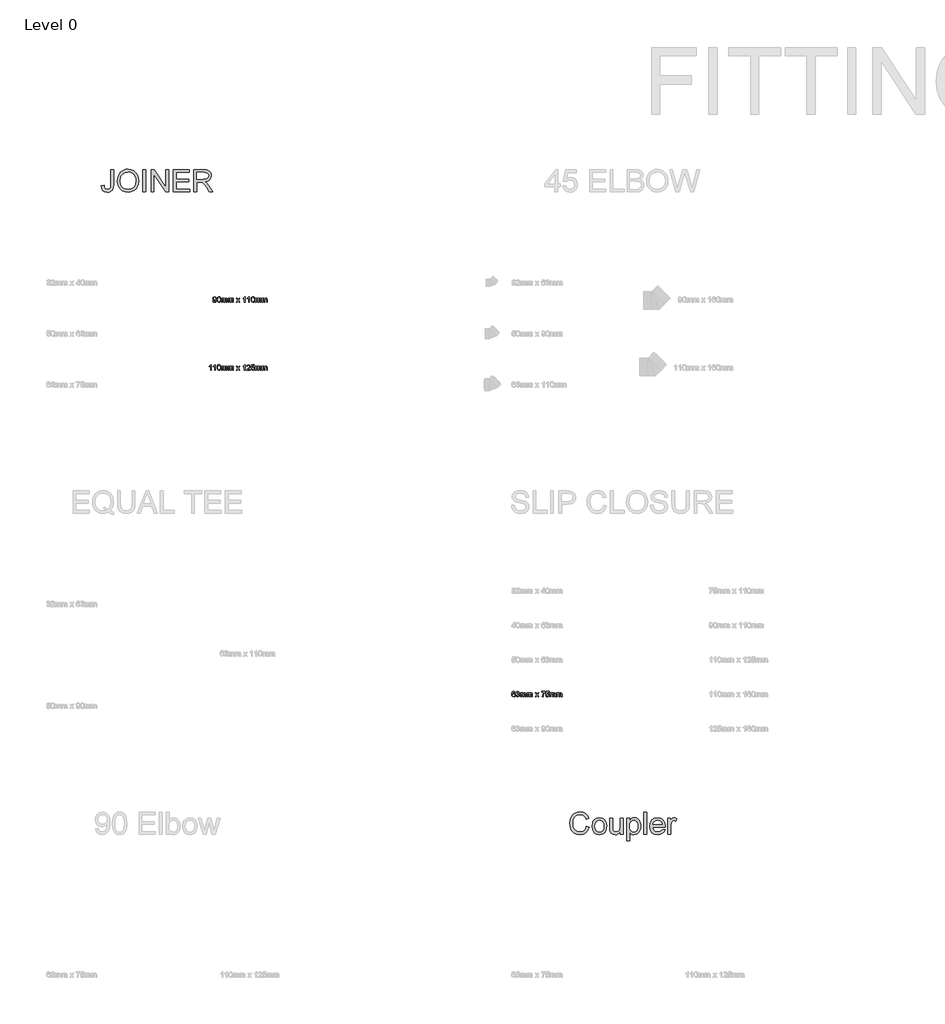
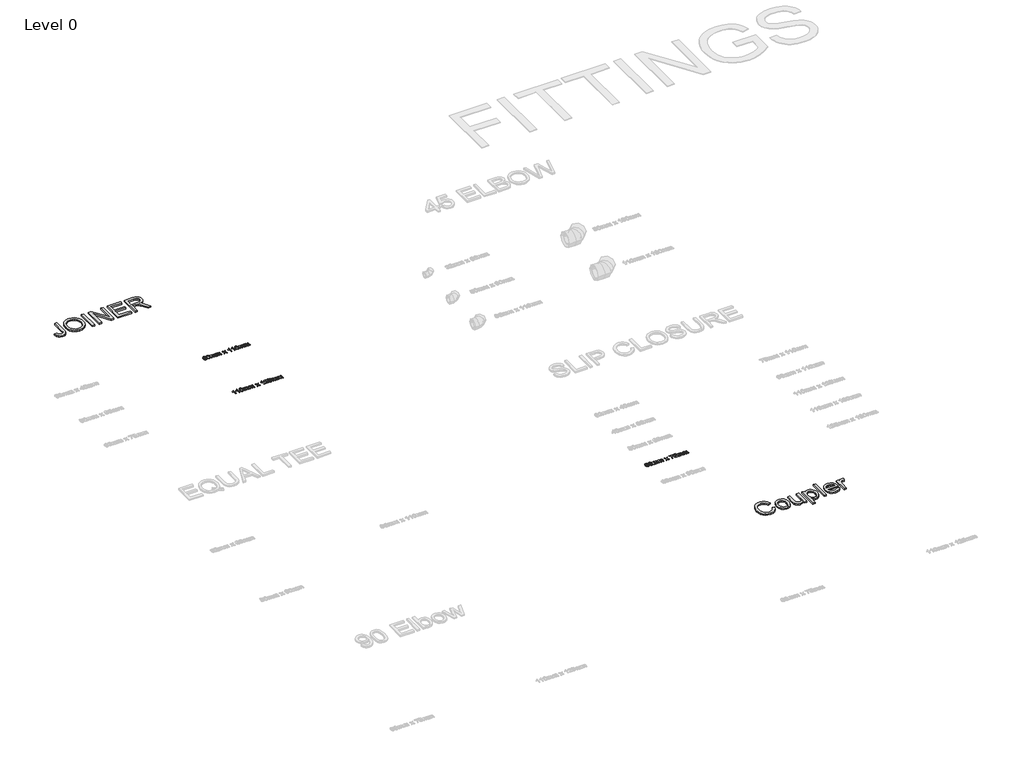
# One storey, part 9 of 21: 5 proxies.
"""IFC4 building model written with IfcOpenShell, lengths in millimetres."""

import ifcopenshell
import ifcopenshell.guid

model = None  # the IFC model being written
_history = None  # IfcOwnerHistory: only IFC2X3 demands one
_inside = {}  # id of a spatial element -> (the spatial element, [elements in it])
_under = {}  # id of a project, library or spatial element -> (it, [spatial elements below it])
_declared = {}  # id of a project -> (the project, [libraries it declares])
_typed = {}  # id of a type object -> (the type object, [elements of that type])
_made_of = {}  # id of a material, layer set ... -> (it, [elements and type objects made of it])


def new_model(schema):
    """Start an empty IFC model of exactly this schema.

    Asked for "IFC4X3", IfcOpenShell would pick the latest addendum, in which some entities
    have other attributes; the version numbers below select the first issue.
    IFC2X3 requires an IfcOwnerHistory on every rooted entity: one is made here for all.
    """
    global model, _history
    if schema == "IFC4X3":
        model = ifcopenshell.file(schema_version=(4, 3, 0, 0))
    else:
        model = ifcopenshell.file(schema=schema)
    _inside.clear()
    _under.clear()
    _declared.clear()
    _typed.clear()
    _made_of.clear()
    _history = None
    if model.schema == "IFC2X3":
        org = make("IfcOrganization", Name="unknown")
        user = make(
            "IfcPersonAndOrganization",
            ThePerson=make("IfcPerson", FamilyName="unknown"),
            TheOrganization=org,
        )
        app = make(
            "IfcApplication",
            ApplicationDeveloper=org,
            Version="unknown",
            ApplicationFullName="unknown",
            ApplicationIdentifier="unknown",
        )
        _history = make(
            "IfcOwnerHistory",
            OwningUser=user,
            OwningApplication=app,
            ChangeAction="ADDED",
            CreationDate=0,
        )
    return model


def make(cls, **values):
    """One entity of the class cls with the attributes given. An attribute that is None is left unset."""
    return model.create_entity(
        cls, **{name: value for name, value in values.items() if value is not None}
    )


def rooted(cls, **values):
    """An entity with a GlobalId (a new one), such as an element, a storey or a relation."""
    return make(cls, GlobalId=ifcopenshell.guid.new(), OwnerHistory=_history, **values)


def si_unit(unit_type, name, prefix=None):
    """IfcSIUnit, for example si_unit("LENGTHUNIT", "METRE", prefix="MILLI")."""
    return make("IfcSIUnit", UnitType=unit_type, Prefix=prefix, Name=name)


def assignment(units):
    """IfcUnitAssignment: the units of a project."""
    return None if units is None else make("IfcUnitAssignment", Units=units)


def point(xyz):
    """IfcCartesianPoint."""
    return None if xyz is None else make("IfcCartesianPoint", Coordinates=xyz)


def direction(xyz):
    """IfcDirection."""
    return None if xyz is None else make("IfcDirection", DirectionRatios=xyz)


def frame(location, z_axis=None, x_axis=None):
    """IfcAxis2Placement3D, a coordinate frame: its origin and axes. An axis left out is left unset."""
    return make(
        "IfcAxis2Placement3D",
        Location=point(location),
        Axis=direction(z_axis),
        RefDirection=direction(x_axis),
    )


def origin():
    """The frame at (0, 0, 0) with its axes left unset."""
    return frame((0.0, 0.0, 0.0))


def origin_with_axes():
    """The frame at (0, 0, 0) with the z axis (0, 0, 1) and the x axis (1, 0, 0) written out."""
    return frame((0.0, 0.0, 0.0), z_axis=(0.0, 0.0, 1.0), x_axis=(1.0, 0.0, 0.0))


def place(relative_to, where):
    """IfcLocalPlacement: puts the frame where relative to a parent placement (None: the world)."""
    return make(
        "IfcLocalPlacement", PlacementRelTo=relative_to, RelativePlacement=where
    )


def context(
    kind, dimensions, precision=None, world=None, true_north=None, identifier=None
):
    """IfcGeometricRepresentationContext, for example the 3D "Model" context."""
    return make(
        "IfcGeometricRepresentationContext",
        ContextIdentifier=identifier,
        ContextType=kind,
        CoordinateSpaceDimension=dimensions,
        Precision=precision,
        WorldCoordinateSystem=world,
        TrueNorth=true_north,
    )


def project(units=None, contexts=None):
    """IfcProject with its units and contexts."""
    return rooted(
        "IfcProject",
        Name="project",
        RepresentationContexts=contexts,
        UnitsInContext=assignment(units),
    )


def spatial(cls, under=None, at=None, **own):
    """A site, building, storey or space (cls), placed at a placement, below another one or the project."""
    s = rooted(cls, ObjectPlacement=at, **own)
    if under is not None:
        _under.setdefault(under.id(), (under, []))[1].append(s)
    return s


def polyline(points):
    """IfcPolyline through the points."""
    return make("IfcPolyline", Points=[point(p) for p in points])


def outline(outer, holes=None, kind="AREA"):
    """IfcArbitraryClosedProfileDef: a profile drawn as a closed curve; with holes, ...WithVoids."""
    if holes is None:
        return make("IfcArbitraryClosedProfileDef", ProfileType=kind, OuterCurve=outer)
    return make(
        "IfcArbitraryProfileDefWithVoids",
        ProfileType=kind,
        OuterCurve=outer,
        InnerCurves=holes,
    )


def extrude(swept, where, along, depth):
    """IfcExtrudedAreaSolid: the profile swept, set in the frame where, extruded along a direction by depth."""
    return make(
        "IfcExtrudedAreaSolid",
        SweptArea=swept,
        Position=where,
        ExtrudedDirection=direction(along),
        Depth=depth,
    )


def shape(context_of_items, identifier, shape_type, items):
    """IfcShapeRepresentation: the items that make up one representation, for example the "Body"."""
    return make(
        "IfcShapeRepresentation",
        ContextOfItems=context_of_items,
        RepresentationIdentifier=identifier,
        RepresentationType=shape_type,
        Items=items,
    )


def made_of(thing, what):
    """Note that an element or type object is made of a material, layer set ...; save() writes the relation."""
    if what is not None:
        _made_of.setdefault(what.id(), (what, []))[1].append(thing)
    return thing


def element(
    cls,
    number,
    at=None,
    inside=None,
    cuts=None,
    type_object=None,
    material=None,
    context=None,
    identifier="Body",
    shape_type=None,
    held_by="IfcProductDefinitionShape",
    body=None,
    shapes=None,
    **own,
):
    """One element of the class cls, such as IfcWall. Its Tag is "e" and its number.

    at: its placement. inside: the storey or other place that contains it. cuts: it is an
    opening in that element (IfcRelVoidsElement). A single representation is given by context,
    identifier, shape_type and body (its items); several are given by shapes. held_by: the class
    of the entity that holds the representations. save() writes the other relations.
    """
    e = rooted(cls, Tag="e%d" % number, ObjectPlacement=at, **own)
    if body is not None:
        shapes = [shape(context, identifier, shape_type, body)]
    if shapes is not None:
        e.Representation = make(held_by, Representations=shapes)
    if inside is not None:
        _inside.setdefault(inside.id(), (inside, []))[1].append(e)
    if cuts is not None:
        rooted(
            "IfcRelVoidsElement", RelatingBuildingElement=cuts, RelatedOpeningElement=e
        )
    if type_object is not None:
        _typed.setdefault(type_object.id(), (type_object, []))[1].append(e)
    return made_of(e, material)


def aggregate(whole, parts):
    """IfcRelAggregates: a whole, such as a stair, and the parts it consists of."""
    return rooted("IfcRelAggregates", RelatingObject=whole, RelatedObjects=parts)


def save(model, path):
    """Write the relations noted so far, then the file.

    IfcRelAggregates (storeys below a building ...), IfcRelContainedInSpatialStructure (elements
    in a storey), IfcRelDefinesByType, IfcRelAssociatesMaterial and IfcRelDeclares: one each for
    every whole, place, type object, material and project.
    """
    for whole, parts in _under.values():
        aggregate(whole, parts)
    for where, things in _inside.values():
        rooted(
            "IfcRelContainedInSpatialStructure",
            RelatedElements=things,
            RelatingStructure=where,
        )
    for kind, things in _typed.values():
        rooted("IfcRelDefinesByType", RelatedObjects=things, RelatingType=kind)
    for what, things in _made_of.values():
        rooted("IfcRelAssociatesMaterial", RelatedObjects=things, RelatingMaterial=what)
    for by, libraries in _declared.values():
        rooted("IfcRelDeclares", RelatingContext=by, RelatedDefinitions=libraries)
    model.write(path)


model = new_model("IFC4")

# Units and contexts
model_context = context("Model", 3, world=origin())
ifc_project = project(units=[si_unit("LENGTHUNIT", "METRE", prefix="MILLI")], contexts=[model_context])

# Site, building, storey
site = spatial("IfcSite", under=ifc_project)
building = spatial("IfcBuilding", under=site)
storey = spatial("IfcBuildingStorey", under=building, Name="Level 0", Elevation=0.0)

# Proxies
placement = place(None, origin())
element("IfcBuildingElementProxy", 1, Name="200mm Arial", ObjectType="200mm Arial", at=placement, inside=storey, context=model_context, shape_type="SweptSolid", body=[
    extrude(outline(polyline([(-11143.6493793, -1496.8026905), (-11118.5353017, -1493.5653289), (-11115.9233396, -1511.8245386), (-11109.9513885, -1523.2411432), (-11100.827915, -1529.2376197), (-11088.7613856, -1531.2364452), (-11071.5690337, -1526.699234), (-11061.6116943, -1514.3383989), (-11058.8893676, -1489.4450506), (-11058.8893676, -1352.2986428), (-11033.77529, -1352.2986428), (-11033.77529, -1489.0035922), (-11035.2897376, -1511.3646861), (-11039.8330802, -1528.0236092), (-11047.6689667, -1540.1943718), (-11059.0610458, -1549.0909847), (-11073.3655241, -1554.5356383), (-11089.938608, -1556.3505228), (-11113.1519619, -1552.6042578), (-11130.2094237, -1541.3654628), (-11140.5591705, -1522.7322398), (-11143.6493793, -1496.8026905)])), origin_with_axes(), (0.0, 0.0, 1.0), 15.0),
    extrude(outline(polyline([(-10999.2434334, -1455.4037033), (-10997.5695704, -1431.8377958), (-10992.5479811, -1410.975821), (-10984.1786657, -1392.8177789), (-10972.4616242, -1377.3636694), (-10958.098898, -1365.0242941), (-10941.7925285, -1356.2104547), (-10923.5425159, -1350.922151), (-10903.34886, -1349.1593831), (-10876.9962464, -1352.4703211), (-10853.3659596, -1362.4031349), (-10833.7455865, -1378.2588489), (-10819.4227142, -1399.3384872), (-10810.6671227, -1424.624243), (-10807.7485922, -1453.0983095), (-10810.8204069, -1481.9525206), (-10820.0358508, -1507.5938957), (-10834.8860207, -1528.7103222), (-10854.8620131, -1543.9896877), (-10878.2899648, -1553.260314), (-10903.4960128, -1556.3505228), (-10930.2532966, -1552.9353516), (-10954.0184735, -1542.689838), (-10973.5897956, -1526.5398184), (-10987.7655152, -1505.4111292), (-10996.3739539, -1481.1002607), (-10999.2434334, -1455.4037033)]), holes=[polyline([(-10974.1293559, -1455.648958), (-10969.1077667, -1487.0783431), (-10954.042999, -1511.027461), (-10931.3998622, -1526.1841992), (-10903.6431656, -1531.2364452), (-10875.4817989, -1526.1351482), (-10852.8018739, -1510.8312572), (-10844.0784721, -1499.5587398), (-10837.8474708, -1486.1463754), (-10832.8626697, -1452.9021057), (-10834.9963853, -1430.6697705), (-10841.397532, -1411.4540676), (-10851.900563, -1395.7393751), (-10866.3399313, -1384.0100708), (-10883.7591438, -1376.7076132), (-10903.2017072, -1374.2734606), (-10930.2165084, -1378.9639561), (-10953.1846076, -1393.0354424), (-10962.347935, -1403.9845303), (-10968.8931688, -1418.0698122), (-10974.1293559, -1455.648958)])]), origin_with_axes(), (0.0, 0.0, 1.0), 15.0),
    extrude(outline(polyline([(-10770.0774759, -1553.2112631), (-10770.0774759, -1352.2986428), (-10744.9633984, -1352.2986428), (-10744.9633984, -1553.2112631), (-10770.0774759, -1553.2112631)])), origin_with_axes(), (0.0, 0.0, 1.0), 15.0),
    extrude(outline(polyline([(-10694.7352433, -1553.2112631), (-10694.7352433, -1352.2986428), (-10667.8553322, -1352.2986428), (-10562.8863362, -1511.4689194), (-10562.8863362, -1352.2986428), (-10537.7722587, -1352.2986428), (-10537.7722587, -1553.2112631), (-10564.6521698, -1553.2112631), (-10669.6211658, -1393.9919356), (-10669.6211658, -1553.2112631), (-10694.7352433, -1553.2112631)])), origin_with_axes(), (0.0, 0.0, 1.0), 15.0),
    extrude(outline(polyline([(-10493.822623, -1553.2112631), (-10493.822623, -1352.2986428), (-10349.4166772, -1352.2986428), (-10349.4166772, -1377.4127203), (-10468.7085455, -1377.4127203), (-10468.7085455, -1437.0586545), (-10355.6951965, -1437.0586545), (-10355.6951965, -1462.172732), (-10468.7085455, -1462.172732), (-10468.7085455, -1528.0971856), (-10346.2774175, -1528.0971856), (-10346.2774175, -1553.2112631), (-10493.822623, -1553.2112631)])), origin_with_axes(), (0.0, 0.0, 1.0), 15.0),
    extrude(outline(polyline([(-10308.6063012, -1553.2112631), (-10308.6063012, -1352.2986428), (-10222.031405, -1352.2986428), (-10198.7628688, -1353.6536748), (-10181.8341656, -1357.7187709), (-10169.4610678, -1365.2235636), (-10159.8593478, -1376.8976855), (-10153.6973244, -1391.373842), (-10151.6433165, -1407.2847383), (-10155.046225, -1427.0767897), (-10165.2549504, -1443.4843267), (-10182.576061, -1455.5140679), (-10207.3161251, -1462.172732), (-10193.0423037, -1472.9148863), (-10172.6861667, -1498.7647278), (-10139.1843796, -1553.2112631), (-10168.3696846, -1553.2112631), (-10194.5138317, -1511.5670212), (-10213.3984408, -1484.0003971), (-10226.6667181, -1470.9773744), (-10238.6106202, -1466.1949085), (-10253.1787472, -1465.3119917), (-10283.4922236, -1465.3119917), (-10283.4922236, -1553.2112631), (-10308.6063012, -1553.2112631)]), holes=[polyline([(-10283.4922236, -1440.1979142), (-10227.2798548, -1440.1979142), (-10198.6095846, -1436.6417216), (-10189.1795428, -1432.0186711), (-10182.3246749, -1425.2619052), (-10176.7573941, -1408.2167061), (-10179.4122758, -1395.9662356), (-10187.376921, -1386.0947354), (-10201.0805253, -1379.5832241), (-10220.9522844, -1377.4127203), (-10283.4922236, -1377.4127203), (-10283.4922236, -1440.1979142)])]), origin_with_axes(), (0.0, 0.0, 1.0), 15.0),
])
element("IfcBuildingElementProxy", 2, Name="200mm Arial", ObjectType="200mm Arial", at=placement, inside=storey, context=model_context, shape_type="SweptSolid", body=[
    extrude(outline(polyline([(-6764.7115768, -7281.7931051), (-6739.5974993, -7288.2678282), (-6751.1857821, -7317.5328409), (-6769.3714154, -7338.9129162), (-6793.2592196, -7351.9911211), (-6821.9540153, -7356.3505228), (-6851.0841379, -7353.0518476), (-6874.217784, -7343.1558219), (-6891.9496962, -7327.0058023), (-6904.874617, -7304.9451453), (-6912.7656858, -7279.0094647), (-6915.396042, -7251.234374), (-6912.4223292, -7221.9387045), (-6903.5011909, -7196.6406859), (-6889.0986108, -7176.1435274), (-6869.6805728, -7161.250438), (-6846.6511599, -7152.1821468), (-6821.414455, -7149.1593831), (-6793.8784877, -7153.071195), (-6771.1127235, -7164.8066306), (-6753.8284011, -7183.6421888), (-6742.736759, -7208.8543682), (-6767.8508365, -7214.838582), (-6776.5573771, -7196.52419), (-6788.4522282, -7183.9610198), (-6803.6825428, -7176.6953504), (-6822.3954737, -7174.2734606), (-6843.9656213, -7176.9589992), (-6861.6852707, -7185.0156149), (-6875.1313577, -7197.5971791), (-6883.8808178, -7213.8575633), (-6888.6816778, -7232.2394003), (-6890.2819645, -7251.1853231), (-6888.3873722, -7274.3864143), (-6882.7035954, -7294.4482457), (-6873.0160362, -7310.6043967), (-6859.1100968, -7322.0884463), (-6842.438911, -7328.9494455), (-6824.4556128, -7331.2364452), (-6803.4924705, -7328.121711), (-6786.0242071, -7318.7775083), (-6772.8356375, -7303.3019391), (-6764.7115768, -7281.7931051)])), origin_with_axes(), (0.0, 0.0, 1.0), 15.0),
    extrude(outline(polyline([(-6714.4834217, -7279.4386603), (-6709.0510309, -7243.8644714), (-6702.2605425, -7230.0413054), (-6692.7538586, -7218.8607585), (-6672.6184507, -7206.610288), (-6648.5099173, -7202.5267979), (-6622.1266469, -7207.4993362), (-6601.0531399, -7222.4169511), (-6587.239171, -7246.1024202), (-6582.6345147, -7277.3785212), (-6584.6701284, -7302.7501161), (-6590.7769695, -7322.0639208), (-6600.7772284, -7336.5278146), (-6614.4930955, -7347.3496766), (-6630.7841365, -7354.1003112), (-6648.5099173, -7356.3505228), (-6675.2120188, -7351.3963786), (-6696.2610002, -7336.533946), (-6709.9278164, -7312.3518362), (-6714.4834217, -7279.4386603)]), holes=[polyline([(-6689.3693442, -7279.3896094), (-6686.4630764, -7302.1185853), (-6677.7442732, -7318.3115245), (-6664.6231487, -7328.0052151), (-6648.5099173, -7331.2364452), (-6632.4702623, -7327.986821), (-6619.3736633, -7318.2379481), (-6610.65486, -7301.8304111), (-6607.7485922, -7278.6047945), (-6610.6732541, -7256.5380061), (-6619.4472397, -7240.5657962), (-6632.5622328, -7230.8721056), (-6648.5099173, -7227.6408754), (-6664.6231487, -7230.8598429), (-6677.7442732, -7240.5167452), (-6686.4630764, -7256.6728962), (-6689.3693442, -7279.3896094)])]), origin_with_axes(), (0.0, 0.0, 1.0), 15.0),
    extrude(outline(polyline([(-6460.2033867, -7353.2112631), (-6460.2033867, -7327.8519309), (-6469.290072, -7340.3200648), (-6479.8728107, -7349.2258748), (-6491.9516029, -7354.5693608), (-6505.5264485, -7356.3505228), (-6529.1444726, -7351.3473276), (-6545.4293822, -7338.7902889), (-6552.9096495, -7320.2980873), (-6554.3811774, -7296.9498433), (-6554.3811774, -7205.6660576), (-6529.2670999, -7205.6660576), (-6529.2670999, -7285.1285685), (-6527.746521, -7310.7331554), (-6524.0860951, -7319.274149), (-6517.8137071, -7325.7672662), (-6499.1007763, -7331.2364452), (-6478.1315026, -7325.6446389), (-6469.7744499, -7319.0411571), (-6464.2746141, -7310.4143243), (-6460.2033867, -7282.4307672), (-6460.2033867, -7205.6660576), (-6435.0893091, -7205.6660576), (-6435.0893091, -7353.2112631), (-6460.2033867, -7353.2112631)])), origin_with_axes(), (0.0, 0.0, 1.0), 15.0),
    extrude(outline(polyline([(-6400.5574525, -7409.7179375), (-6400.5574525, -7205.6660576), (-6375.443375, -7205.6660576), (-6375.443375, -7230.2896258), (-6358.0793448, -7209.4675048), (-6347.3862415, -7204.2619746), (-6334.632999, -7202.5267979), (-6317.6491135, -7204.954819), (-6302.7989437, -7212.2388825), (-6290.7078888, -7223.93753), (-6282.0013482, -7239.609303), (-6276.7406357, -7258.1137673), (-6274.9870648, -7278.3104889), (-6276.9674962, -7299.788666), (-6282.9087905, -7318.9982375), (-6292.6208751, -7334.9643161), (-6305.9136779, -7346.7120145), (-6321.3953785, -7353.9408957), (-6337.6741568, -7356.3505228), (-6349.2195201, -7354.7379734), (-6359.5263473, -7349.9003251), (-6375.443375, -7333.59089), (-6375.443375, -7409.7179375), (-6400.5574525, -7409.7179375)]), holes=[polyline([(-6375.443375, -7280.6158827), (-6372.7271796, -7303.1302608), (-6364.5785934, -7318.8756102), (-6352.5549835, -7328.1462365), (-6338.2137171, -7331.2364452), (-6323.6394587, -7328.0358719), (-6311.3092805, -7318.4341518), (-6302.9031769, -7302.112454), (-6300.1011424, -7278.7519473), (-6302.8357319, -7256.3601965), (-6311.0395004, -7240.3941179), (-6323.0447161, -7230.829186), (-6337.1836475, -7227.6408754), (-6351.3777611, -7231.0315211), (-6363.8428294, -7241.2034583), (-6372.5432386, -7257.8378558), (-6375.443375, -7280.6158827)])]), origin_with_axes(), (0.0, 0.0, 1.0), 15.0),
    extrude(outline(polyline([(-6246.7337276, -7353.2112631), (-6246.7337276, -7152.2986428), (-6221.6196501, -7152.2986428), (-6221.6196501, -7353.2112631), (-6246.7337276, -7353.2112631)])), origin_with_axes(), (0.0, 0.0, 1.0), 15.0),
    extrude(outline(polyline([(-6080.6472695, -7309.2616274), (-6056.0237013, -7312.4008871), (-6064.8957888, -7330.9544024), (-6079.0531142, -7344.8235536), (-6098.1768466, -7353.4687805), (-6121.9481548, -7356.3505228), (-6151.4155027, -7351.3779845), (-6174.0892963, -7336.4603696), (-6188.5470587, -7312.566434), (-6193.3663128, -7280.6649336), (-6188.4980078, -7247.6904441), (-6173.8930926, -7223.0300877), (-6151.5258673, -7207.6526203), (-6123.3706319, -7202.5267979), (-6096.092182, -7207.6403576), (-6074.2951737, -7222.9810368), (-6060.0029582, -7247.5923423), (-6055.2388864, -7280.5177808), (-6055.3860392, -7287.2868096), (-6168.2522353, -7287.2868096), (-6163.9050964, -7306.0855795), (-6153.8067356, -7319.9056798), (-6139.2324773, -7328.4037539), (-6121.4576455, -7331.2364452), (-6096.8340773, -7325.9879954), (-6087.6860784, -7319.1821785), (-6080.6472695, -7309.2616274)]), holes=[polyline([(-6168.2522353, -7262.172732), (-6080.3529639, -7262.172732), (-6083.749741, -7248.9044547), (-6090.4084051, -7239.4130992), (-6105.0501085, -7230.5839314), (-6123.4687338, -7227.6408754), (-6140.3974369, -7229.9891888), (-6154.3953468, -7237.034129), (-6164.1258256, -7248.0154066), (-6168.2522353, -7262.172732)])]), origin_with_axes(), (0.0, 0.0, 1.0), 15.0),
    extrude(outline(polyline([(-6030.1248088, -7353.2112631), (-6030.1248088, -7205.6660576), (-6008.149991, -7205.6660576), (-6008.149991, -7227.4937226), (-5992.5517944, -7207.3828402), (-5976.8554959, -7202.5267979), (-5964.3475081, -7204.4643097), (-5951.6433165, -7210.2768452), (-5960.031026, -7232.7912233), (-5977.6893618, -7227.6408754), (-5991.8896068, -7232.5950196), (-6000.9395039, -7246.3292808), (-6005.0107313, -7275.6617385), (-6005.0107313, -7353.2112631), (-6030.1248088, -7353.2112631)])), origin_with_axes(), (0.0, 0.0, 1.0), 15.0),
])
element("IfcBuildingElementProxy", 3, Name="50mm", ObjectType="50mm", at=placement, inside=storey, context=model_context, shape_type="SweptSolid", body=[
    extrude(outline(polyline([(-10136.586045, -2537.3786578), (-10130.3075256, -2536.5938429), (-10127.487097, -2542.584188), (-10122.1405453, -2544.4419921), (-10117.0576424, -2543.2463756), (-10113.6118144, -2540.0519336), (-10111.5578066, -2534.5950174), (-10110.6503643, -2527.3109539), (-10115.7087417, -2530.842621), (-10122.5942664, -2532.6697683), (-10133.0850346, -2528.2061334), (-10137.3708599, -2516.4461723), (-10132.8765682, -2504.3060664), (-10121.6132478, -2499.7075415), (-10112.6675839, -2502.3317664), (-10106.5116919, -2509.8120336), (-10104.4086331, -2523.8651258), (-10106.5055605, -2539.1138345), (-10112.7411603, -2547.7529301), (-10122.4348509, -2550.7205115), (-10132.0856219, -2547.2195012), (-10136.586045, -2537.3786578)]), holes=[polyline([(-10110.6871525, -2516.2990195), (-10113.3972165, -2508.7697013), (-10120.5954409, -2505.9860609), (-10128.1492845, -2508.9842991), (-10131.0923405, -2516.7527406), (-10128.3087001, -2523.7118417), (-10120.7671192, -2526.3912489), (-10113.5259752, -2523.7118417), (-10110.6871525, -2516.2990195)])]), origin_with_axes(), (0.0, 0.0, 1.0), 5.0),
    extrude(outline(polyline([(-10098.9149287, -2525.2262892), (-10097.0693873, -2510.7746582), (-10091.5879456, -2502.442131), (-10082.4338153, -2499.7075415), (-10075.1007008, -2501.3262223), (-10070.036192, -2505.9921922), (-10067.0931361, -2513.4234085), (-10065.9527019, -2525.2262892), (-10067.7798491, -2539.6166066), (-10073.2428968, -2547.9675279), (-10082.4338153, -2550.7205115), (-10093.9117335, -2545.9380455), (-10097.6641299, -2537.4430371), (-10098.9149287, -2525.2262892)]), holes=[polyline([(-10092.6364093, -2525.2140265), (-10089.6933533, -2540.8060917), (-10082.4338153, -2544.4419921), (-10075.1742772, -2540.793829), (-10072.2312213, -2525.2140265), (-10075.0761754, -2509.7997709), (-10082.5073917, -2505.9860609), (-10089.5952514, -2509.3460498), (-10092.6364093, -2525.2140265)])]), origin_with_axes(), (0.0, 0.0, 1.0), 5.0),
    extrude(outline(polyline([(-10058.8893676, -2549.9356966), (-10058.8893676, -2513.0493952), (-10052.6108482, -2513.0493952), (-10052.6108482, -2519.1194481), (-10048.2943661, -2514.1469098), (-10042.1507368, -2512.2645803), (-10035.8599547, -2514.183698), (-10032.4018639, -2519.5609065), (-10027.502902, -2514.0886618), (-10021.3163531, -2512.2645803), (-10013.1064533, -2515.2996067), (-10010.2308424, -2524.6499408), (-10010.2308424, -2549.9356966), (-10016.5093617, -2549.9356966), (-10016.5093617, -2527.3477421), (-10017.0918416, -2522.1054236), (-10019.2010317, -2519.5241183), (-10022.7878811, -2518.5430996), (-10028.9621673, -2521.0569599), (-10031.4208453, -2529.1135756), (-10031.4208453, -2549.9356966), (-10037.6993647, -2549.9356966), (-10037.6993647, -2526.6487663), (-10039.1524985, -2520.5664506), (-10043.9165704, -2518.5430996), (-10048.5641463, -2519.8920003), (-10051.654355, -2523.8406004), (-10052.6108482, -2531.3331303), (-10052.6108482, -2549.9356966), (-10058.8893676, -2549.9356966)])), origin_with_axes(), (0.0, 0.0, 1.0), 5.0),
    extrude(outline(polyline([(-10000.8130633, -2549.9356966), (-10000.8130633, -2513.0493952), (-9994.5345439, -2513.0493952), (-9994.5345439, -2519.1194481), (-9990.2180618, -2514.1469098), (-9984.0744325, -2512.2645803), (-9977.7836504, -2514.183698), (-9974.3255596, -2519.5609065), (-9969.4265977, -2514.0886618), (-9963.2400488, -2512.2645803), (-9955.030149, -2515.2996067), (-9952.1545381, -2524.6499408), (-9952.1545381, -2549.9356966), (-9958.4330574, -2549.9356966), (-9958.4330574, -2527.3477421), (-9959.0155373, -2522.1054236), (-9961.1247274, -2519.5241183), (-9964.7115768, -2518.5430996), (-9970.885863, -2521.0569599), (-9973.344541, -2529.1135756), (-9973.344541, -2549.9356966), (-9979.6230604, -2549.9356966), (-9979.6230604, -2526.6487663), (-9981.0761942, -2520.5664506), (-9985.8402661, -2518.5430996), (-9990.4878419, -2519.8920003), (-9993.5780507, -2523.8406004), (-9994.5345439, -2531.3331303), (-9994.5345439, -2549.9356966), (-10000.8130633, -2549.9356966)])), origin_with_axes(), (0.0, 0.0, 1.0), 5.0),
    extrude(outline(polyline([(-9927.0404605, -2549.9356966), (-9913.6250304, -2531.394444), (-9926.2556456, -2513.0493952), (-9918.701802, -2513.0493952), (-9912.6072236, -2521.8785631), (-9909.7622695, -2526.0478923), (-9907.2974601, -2522.6388525), (-9900.3567531, -2513.0493952), (-9892.8029095, -2513.0493952), (-9906.0711868, -2531.394444), (-9893.2934188, -2549.9356966), (-9900.8472625, -2549.9356966), (-9908.5359962, -2538.7888721), (-9909.9462105, -2536.7532584), (-9919.4866169, -2549.9356966), (-9927.0404605, -2549.9356966)])), origin_with_axes(), (0.0, 0.0, 1.0), 5.0),
    extrude(outline(polyline([(-9846.2045234, -2549.9356966), (-9852.4830428, -2549.9356966), (-9852.4830428, -2510.7930523), (-9858.4304684, -2515.0298266), (-9865.0400816, -2518.1997431), (-9865.0400816, -2512.2645803), (-9855.8369003, -2506.3907311), (-9850.2512254, -2499.7075415), (-9846.2045234, -2499.7075415), (-9846.2045234, -2549.9356966)])), origin_with_axes(), (0.0, 0.0, 1.0), 5.0),
    extrude(outline(polyline([(-9807.7485922, -2549.9356966), (-9814.0271116, -2549.9356966), (-9814.0271116, -2510.7930523), (-9819.9745372, -2515.0298266), (-9826.5841504, -2518.1997431), (-9826.5841504, -2512.2645803), (-9817.3809691, -2506.3907311), (-9811.7952942, -2499.7075415), (-9807.7485922, -2499.7075415), (-9807.7485922, -2549.9356966)])), origin_with_axes(), (0.0, 0.0, 1.0), 5.0),
    extrude(outline(polyline([(-9792.8371087, -2525.2262892), (-9790.9915673, -2510.7746582), (-9785.5101256, -2502.442131), (-9776.3559953, -2499.7075415), (-9769.0228809, -2501.3262223), (-9763.9583721, -2505.9921922), (-9761.0153161, -2513.4234085), (-9759.8748819, -2525.2262892), (-9761.7020291, -2539.6166066), (-9767.1650768, -2547.9675279), (-9776.3559953, -2550.7205115), (-9787.8339135, -2545.9380455), (-9791.5863099, -2537.4430371), (-9792.8371087, -2525.2262892)]), holes=[polyline([(-9786.5585893, -2525.2140265), (-9783.6155333, -2540.8060917), (-9776.3559953, -2544.4419921), (-9769.0964573, -2540.793829), (-9766.1534013, -2525.2140265), (-9768.9983554, -2509.7997709), (-9776.4295717, -2505.9860609), (-9783.5174315, -2509.3460498), (-9786.5585893, -2525.2140265)])]), origin_with_axes(), (0.0, 0.0, 1.0), 5.0),
    extrude(outline(polyline([(-9752.8115476, -2549.9356966), (-9752.8115476, -2513.0493952), (-9746.5330282, -2513.0493952), (-9746.5330282, -2519.1194481), (-9742.2165461, -2514.1469098), (-9736.0729168, -2512.2645803), (-9729.7821347, -2514.183698), (-9726.3240439, -2519.5609065), (-9721.425082, -2514.0886618), (-9715.2385332, -2512.2645803), (-9707.0286333, -2515.2996067), (-9704.1530224, -2524.6499408), (-9704.1530224, -2549.9356966), (-9710.4315418, -2549.9356966), (-9710.4315418, -2527.3477421), (-9711.0140216, -2522.1054236), (-9713.1232117, -2519.5241183), (-9716.7100611, -2518.5430996), (-9722.8843473, -2521.0569599), (-9725.3430253, -2529.1135756), (-9725.3430253, -2549.9356966), (-9731.6215447, -2549.9356966), (-9731.6215447, -2526.6487663), (-9733.0746786, -2520.5664506), (-9737.8387504, -2518.5430996), (-9742.4863263, -2519.8920003), (-9745.576535, -2523.8406004), (-9746.5330282, -2531.3331303), (-9746.5330282, -2549.9356966), (-9752.8115476, -2549.9356966)])), origin_with_axes(), (0.0, 0.0, 1.0), 5.0),
    extrude(outline(polyline([(-9694.7352433, -2549.9356966), (-9694.7352433, -2513.0493952), (-9688.4567239, -2513.0493952), (-9688.4567239, -2519.1194481), (-9684.1402418, -2514.1469098), (-9677.9966125, -2512.2645803), (-9671.7058304, -2514.183698), (-9668.2477396, -2519.5609065), (-9663.3487777, -2514.0886618), (-9657.1622289, -2512.2645803), (-9648.952329, -2515.2996067), (-9646.0767181, -2524.6499408), (-9646.0767181, -2549.9356966), (-9652.3552374, -2549.9356966), (-9652.3552374, -2527.3477421), (-9652.9377173, -2522.1054236), (-9655.0469074, -2519.5241183), (-9658.6337568, -2518.5430996), (-9664.808043, -2521.0569599), (-9667.266721, -2529.1135756), (-9667.266721, -2549.9356966), (-9673.5452404, -2549.9356966), (-9673.5452404, -2526.6487663), (-9674.9983743, -2520.5664506), (-9679.7624461, -2518.5430996), (-9684.410022, -2519.8920003), (-9687.5002307, -2523.8406004), (-9688.4567239, -2531.3331303), (-9688.4567239, -2549.9356966), (-9694.7352433, -2549.9356966)])), origin_with_axes(), (0.0, 0.0, 1.0), 5.0),
])
element("IfcBuildingElementProxy", 4, Name="50mm", ObjectType="50mm", at=placement, inside=storey, context=model_context, shape_type="SweptSolid", body=[
    extrude(outline(polyline([(-10152.2823434, -3163.2690299), (-10158.5608628, -3163.2690299), (-10158.5608628, -3124.1263856), (-10164.5082884, -3128.3631599), (-10171.1179016, -3131.5330764), (-10171.1179016, -3125.5979136), (-10161.9147203, -3119.7240644), (-10156.3290454, -3113.0408748), (-10152.2823434, -3113.0408748), (-10152.2823434, -3163.2690299)])), origin_with_axes(), (0.0, 0.0, 1.0), 5.0),
    extrude(outline(polyline([(-10113.8264122, -3163.2690299), (-10120.1049316, -3163.2690299), (-10120.1049316, -3124.1263856), (-10126.0523572, -3128.3631599), (-10132.6619704, -3131.5330764), (-10132.6619704, -3125.5979136), (-10123.4587891, -3119.7240644), (-10117.8731141, -3113.0408748), (-10113.8264122, -3113.0408748), (-10113.8264122, -3163.2690299)])), origin_with_axes(), (0.0, 0.0, 1.0), 5.0),
    extrude(outline(polyline([(-10098.9149287, -3138.5596226), (-10097.0693873, -3124.1079915), (-10091.5879456, -3115.7754643), (-10082.4338153, -3113.0408748), (-10075.1007008, -3114.6595556), (-10070.036192, -3119.3255256), (-10067.0931361, -3126.7567419), (-10065.9527019, -3138.5596226), (-10067.7798491, -3152.9499399), (-10073.2428968, -3161.3008612), (-10082.4338153, -3164.0538448), (-10093.9117335, -3159.2713789), (-10097.6641299, -3150.7763705), (-10098.9149287, -3138.5596226)]), holes=[polyline([(-10092.6364093, -3138.5473598), (-10089.6933533, -3154.139425), (-10082.4338153, -3157.7753254), (-10075.1742772, -3154.1271623), (-10072.2312213, -3138.5473598), (-10075.0761754, -3123.1331042), (-10082.5073917, -3119.3193942), (-10089.5952514, -3122.6793831), (-10092.6364093, -3138.5473598)])]), origin_with_axes(), (0.0, 0.0, 1.0), 5.0),
    extrude(outline(polyline([(-10058.8893676, -3163.2690299), (-10058.8893676, -3126.3827285), (-10052.6108482, -3126.3827285), (-10052.6108482, -3132.4527814), (-10048.2943661, -3127.4802431), (-10042.1507368, -3125.5979136), (-10035.8599547, -3127.5170313), (-10032.4018639, -3132.8942398), (-10027.502902, -3127.4219952), (-10021.3163531, -3125.5979136), (-10013.1064533, -3128.6329401), (-10010.2308424, -3137.9832741), (-10010.2308424, -3163.2690299), (-10016.5093617, -3163.2690299), (-10016.5093617, -3140.6810754), (-10017.0918416, -3135.438757), (-10019.2010317, -3132.8574516), (-10022.7878811, -3131.876433), (-10028.9621673, -3134.3902933), (-10031.4208453, -3142.446909), (-10031.4208453, -3163.2690299), (-10037.6993647, -3163.2690299), (-10037.6993647, -3139.9820996), (-10039.1524985, -3133.8997839), (-10043.9165704, -3131.876433), (-10048.5641463, -3133.2253336), (-10051.654355, -3137.1739337), (-10052.6108482, -3144.6664637), (-10052.6108482, -3163.2690299), (-10058.8893676, -3163.2690299)])), origin_with_axes(), (0.0, 0.0, 1.0), 5.0),
    extrude(outline(polyline([(-10000.8130633, -3163.2690299), (-10000.8130633, -3126.3827285), (-9994.5345439, -3126.3827285), (-9994.5345439, -3132.4527814), (-9990.2180618, -3127.4802431), (-9984.0744325, -3125.5979136), (-9977.7836504, -3127.5170313), (-9974.3255596, -3132.8942398), (-9969.4265977, -3127.4219952), (-9963.2400488, -3125.5979136), (-9955.030149, -3128.6329401), (-9952.1545381, -3137.9832741), (-9952.1545381, -3163.2690299), (-9958.4330574, -3163.2690299), (-9958.4330574, -3140.6810754), (-9959.0155373, -3135.438757), (-9961.1247274, -3132.8574516), (-9964.7115768, -3131.876433), (-9970.885863, -3134.3902933), (-9973.344541, -3142.446909), (-9973.344541, -3163.2690299), (-9979.6230604, -3163.2690299), (-9979.6230604, -3139.9820996), (-9981.0761942, -3133.8997839), (-9985.8402661, -3131.876433), (-9990.4878419, -3133.2253336), (-9993.5780507, -3137.1739337), (-9994.5345439, -3144.6664637), (-9994.5345439, -3163.2690299), (-10000.8130633, -3163.2690299)])), origin_with_axes(), (0.0, 0.0, 1.0), 5.0),
    extrude(outline(polyline([(-9927.0404605, -3163.2690299), (-9913.6250304, -3144.7277773), (-9926.2556456, -3126.3827285), (-9918.701802, -3126.3827285), (-9912.6072236, -3135.2118964), (-9909.7622695, -3139.3812257), (-9907.2974601, -3135.9721859), (-9900.3567531, -3126.3827285), (-9892.8029095, -3126.3827285), (-9906.0711868, -3144.7277773), (-9893.2934188, -3163.2690299), (-9900.8472625, -3163.2690299), (-9908.5359962, -3152.1222054), (-9909.9462105, -3150.0865917), (-9919.4866169, -3163.2690299), (-9927.0404605, -3163.2690299)])), origin_with_axes(), (0.0, 0.0, 1.0), 5.0),
    extrude(outline(polyline([(-9846.2045234, -3163.2690299), (-9852.4830428, -3163.2690299), (-9852.4830428, -3124.1263856), (-9858.4304684, -3128.3631599), (-9865.0400816, -3131.5330764), (-9865.0400816, -3125.5979136), (-9855.8369003, -3119.7240644), (-9850.2512254, -3113.0408748), (-9846.2045234, -3113.0408748), (-9846.2045234, -3163.2690299)])), origin_with_axes(), (0.0, 0.0, 1.0), 5.0),
    extrude(outline(polyline([(-9799.1156281, -3156.9905105), (-9799.1156281, -3163.2690299), (-9832.0778548, -3163.2690299), (-9831.4034045, -3158.9402851), (-9827.5896945, -3152.2754896), (-9819.7292825, -3144.9975575), (-9808.8890264, -3134.5374461), (-9806.1789624, -3127.4250608), (-9808.7357422, -3121.6677076), (-9815.4128004, -3119.3193942), (-9822.3719015, -3121.6125253), (-9825.0145205, -3127.9523584), (-9831.2930399, -3127.1675434), (-9826.4799171, -3116.6583811), (-9815.2779104, -3113.0408748), (-9804.0391154, -3117.0630513), (-9799.900443, -3127.0449161), (-9801.0163517, -3132.9984731), (-9804.7258285, -3139.1543651), (-9813.7205433, -3147.7566724), (-9820.9432931, -3153.7960685), (-9823.7759845, -3156.9905105), (-9799.1156281, -3156.9905105)])), origin_with_axes(), (0.0, 0.0, 1.0), 5.0),
    extrude(outline(polyline([(-9792.8371087, -3149.9271762), (-9786.5585893, -3149.1423613), (-9783.3948041, -3155.610953), (-9776.8342419, -3157.7753254), (-9768.9615672, -3154.7648244), (-9766.1534013, -3146.7756538), (-9768.7837576, -3139.319912), (-9776.73614, -3136.5853225), (-9782.2482386, -3137.6767058), (-9785.7737744, -3140.5093971), (-9792.0522937, -3139.7245822), (-9786.5585893, -3113.8256897), (-9762.2293267, -3113.8256897), (-9762.2293267, -3120.1042091), (-9781.4818178, -3120.1042091), (-9784.1673563, -3133.9365721), (-9774.9825692, -3130.3068031), (-9764.2465463, -3134.8072262), (-9759.8748819, -3146.3832463), (-9763.8112193, -3158.0328428), (-9769.4643392, -3162.5485943), (-9776.8587673, -3164.0538448), (-9787.9381468, -3160.1849525), (-9792.8371087, -3149.9271762)])), origin_with_axes(), (0.0, 0.0, 1.0), 5.0),
    extrude(outline(polyline([(-9752.8115476, -3163.2690299), (-9752.8115476, -3126.3827285), (-9746.5330282, -3126.3827285), (-9746.5330282, -3132.4527814), (-9742.2165461, -3127.4802431), (-9736.0729168, -3125.5979136), (-9729.7821347, -3127.5170313), (-9726.3240439, -3132.8942398), (-9721.425082, -3127.4219952), (-9715.2385332, -3125.5979136), (-9707.0286333, -3128.6329401), (-9704.1530224, -3137.9832741), (-9704.1530224, -3163.2690299), (-9710.4315418, -3163.2690299), (-9710.4315418, -3140.6810754), (-9711.0140216, -3135.438757), (-9713.1232117, -3132.8574516), (-9716.7100611, -3131.876433), (-9722.8843473, -3134.3902933), (-9725.3430253, -3142.446909), (-9725.3430253, -3163.2690299), (-9731.6215447, -3163.2690299), (-9731.6215447, -3139.9820996), (-9733.0746786, -3133.8997839), (-9737.8387504, -3131.876433), (-9742.4863263, -3133.2253336), (-9745.576535, -3137.1739337), (-9746.5330282, -3144.6664637), (-9746.5330282, -3163.2690299), (-9752.8115476, -3163.2690299)])), origin_with_axes(), (0.0, 0.0, 1.0), 5.0),
    extrude(outline(polyline([(-9694.7352433, -3163.2690299), (-9694.7352433, -3126.3827285), (-9688.4567239, -3126.3827285), (-9688.4567239, -3132.4527814), (-9684.1402418, -3127.4802431), (-9677.9966125, -3125.5979136), (-9671.7058304, -3127.5170313), (-9668.2477396, -3132.8942398), (-9663.3487777, -3127.4219952), (-9657.1622289, -3125.5979136), (-9648.952329, -3128.6329401), (-9646.0767181, -3137.9832741), (-9646.0767181, -3163.2690299), (-9652.3552374, -3163.2690299), (-9652.3552374, -3140.6810754), (-9652.9377173, -3135.438757), (-9655.0469074, -3132.8574516), (-9658.6337568, -3131.876433), (-9664.808043, -3134.3902933), (-9667.266721, -3142.446909), (-9667.266721, -3163.2690299), (-9673.5452404, -3163.2690299), (-9673.5452404, -3139.9820996), (-9674.9983743, -3133.8997839), (-9679.7624461, -3131.876433), (-9684.410022, -3133.2253336), (-9687.5002307, -3137.1739337), (-9688.4567239, -3144.6664637), (-9688.4567239, -3163.2690299), (-9694.7352433, -3163.2690299)])), origin_with_axes(), (0.0, 0.0, 1.0), 5.0),
])
element("IfcBuildingElementProxy", 5, Name="50mm", ObjectType="50mm", at=placement, inside=storey, context=model_context, shape_type="SweptSolid", body=[
    extrude(outline(polyline([(-7406.051157, -6075.0749617), (-7412.3296764, -6075.8597766), (-7414.7086466, -6070.6235896), (-7420.9994287, -6068.0116274), (-7426.6648115, -6069.5322063), (-7430.9506367, -6075.2405086), (-7432.7348644, -6086.4302526), (-7427.1982403, -6081.4209261), (-7420.3372411, -6079.7838512), (-7409.6686633, -6084.2597489), (-7405.2663421, -6095.8235062), (-7407.338744, -6104.4871272), (-7413.0409149, -6110.6184938), (-7421.2692089, -6112.746078), (-7434.0653709, -6107.1052208), (-7437.7763805, -6099.6372163), (-7439.0133838, -6088.5149173), (-7437.6399576, -6076.0099951), (-7433.5196793, -6067.4598044), (-7427.8941505, -6063.1647821), (-7420.6070213, -6061.733108), (-7410.6864701, -6065.2770379), (-7406.051157, -6075.0749617)]), holes=[polyline([(-7432.7348644, -6095.7254044), (-7431.2817305, -6101.1639265), (-7427.4189695, -6105.1125266), (-7421.7597182, -6106.4675586), (-7414.3591587, -6103.6593927), (-7411.5448614, -6096.0319727), (-7414.3223705, -6088.7295151), (-7422.0172356, -6086.0623706), (-7429.6139988, -6088.7295151), (-7432.7348644, -6095.7254044)])]), origin_with_axes(), (0.0, 0.0, 1.0), 5.0),
    extrude(outline(polyline([(-7399.7726376, -6098.6194094), (-7393.4941182, -6097.8345945), (-7390.0298961, -6104.4442077), (-7383.5490416, -6106.4675586), (-7375.9216216, -6103.6839182), (-7373.0889302, -6096.7922622), (-7375.8970961, -6090.2991449), (-7383.0340068, -6087.7301023), (-7387.436328, -6088.4168154), (-7386.7373522, -6082.138296), (-7378.6071601, -6080.4092506), (-7375.443375, -6074.8664952), (-7377.7365061, -6069.9552706), (-7383.6471435, -6068.0116274), (-7389.6313573, -6069.9736647), (-7392.7093033, -6075.8597766), (-7398.9878227, -6075.0749617), (-7393.8497375, -6065.227987), (-7383.8678727, -6061.733108), (-7376.2956349, -6063.456022), (-7370.9981342, -6068.1649116), (-7369.1648556, -6074.4986132), (-7370.9061637, -6080.2866233), (-7376.0565116, -6084.4436899), (-7369.2139065, -6088.7356465), (-7366.8104108, -6096.9026268), (-7371.6174022, -6108.1352903), (-7383.7697708, -6112.746078), (-7394.7817052, -6108.8097407), (-7399.7726376, -6098.6194094)])), origin_with_axes(), (0.0, 0.0, 1.0), 5.0),
    extrude(outline(polyline([(-7359.7470765, -6111.9612631), (-7359.7470765, -6075.0749617), (-7353.4685571, -6075.0749617), (-7353.4685571, -6081.1450146), (-7349.1520751, -6076.1724763), (-7343.0084457, -6074.2901468), (-7336.7176636, -6076.2092645), (-7333.2595729, -6081.586473), (-7328.360611, -6076.1142283), (-7322.1740621, -6074.2901468), (-7313.9641622, -6077.3251732), (-7311.0885513, -6086.6755073), (-7311.0885513, -6111.9612631), (-7317.3670707, -6111.9612631), (-7317.3670707, -6089.3733086), (-7317.9495505, -6084.1309902), (-7320.0587406, -6081.5496848), (-7323.6455901, -6080.5686662), (-7329.8198762, -6083.0825265), (-7332.2785542, -6091.1391422), (-7332.2785542, -6111.9612631), (-7338.5570736, -6111.9612631), (-7338.5570736, -6088.6743328), (-7340.0102075, -6082.5920171), (-7344.7742793, -6080.5686662), (-7349.4218552, -6081.9175668), (-7352.512064, -6085.8661669), (-7353.4685571, -6093.3586969), (-7353.4685571, -6111.9612631), (-7359.7470765, -6111.9612631)])), origin_with_axes(), (0.0, 0.0, 1.0), 5.0),
    extrude(outline(polyline([(-7301.6707722, -6111.9612631), (-7301.6707722, -6075.0749617), (-7295.3922528, -6075.0749617), (-7295.3922528, -6081.1450146), (-7291.0757708, -6076.1724763), (-7284.9321414, -6074.2901468), (-7278.6413593, -6076.2092645), (-7275.1832686, -6081.586473), (-7270.2843067, -6076.1142283), (-7264.0977578, -6074.2901468), (-7255.8878579, -6077.3251732), (-7253.012247, -6086.6755073), (-7253.012247, -6111.9612631), (-7259.2907664, -6111.9612631), (-7259.2907664, -6089.3733086), (-7259.8732462, -6084.1309902), (-7261.9824363, -6081.5496848), (-7265.5692858, -6080.5686662), (-7271.7435719, -6083.0825265), (-7274.2022499, -6091.1391422), (-7274.2022499, -6111.9612631), (-7280.4807693, -6111.9612631), (-7280.4807693, -6088.6743328), (-7281.9339032, -6082.5920171), (-7286.697975, -6080.5686662), (-7291.3455509, -6081.9175668), (-7294.4357597, -6085.8661669), (-7295.3922528, -6093.3586969), (-7295.3922528, -6111.9612631), (-7301.6707722, -6111.9612631)])), origin_with_axes(), (0.0, 0.0, 1.0), 5.0),
    extrude(outline(polyline([(-7227.8981695, -6111.9612631), (-7214.4827394, -6093.4200105), (-7227.1133545, -6075.0749617), (-7219.5595109, -6075.0749617), (-7213.4649325, -6083.9041296), (-7210.6199784, -6088.0734589), (-7208.155169, -6084.664419), (-7201.2144621, -6075.0749617), (-7193.6606184, -6075.0749617), (-7206.9288957, -6093.4200105), (-7194.1511278, -6111.9612631), (-7201.7049714, -6111.9612631), (-7209.3937051, -6100.8144386), (-7210.8039194, -6098.7788249), (-7220.3443258, -6111.9612631), (-7227.8981695, -6111.9612631)])), origin_with_axes(), (0.0, 0.0, 1.0), 5.0),
    extrude(outline(polyline([(-7170.6066801, -6068.7964423), (-7170.6066801, -6062.5179229), (-7137.6444533, -6062.5179229), (-7137.6444533, -6067.5946945), (-7146.9947874, -6081.1020951), (-7154.1500922, -6098.3128411), (-7156.4800115, -6111.9612631), (-7162.7585308, -6111.9612631), (-7160.2630646, -6097.7978063), (-7153.4143282, -6081.7888081), (-7143.9229727, -6068.7964423), (-7170.6066801, -6068.7964423)])), origin_with_axes(), (0.0, 0.0, 1.0), 5.0),
    extrude(outline(polyline([(-7132.1507488, -6098.6194094), (-7125.8722295, -6097.8345945), (-7122.7084443, -6104.3031862), (-7116.1478821, -6106.4675586), (-7108.2752074, -6103.4570576), (-7105.4670415, -6095.467887), (-7108.0973977, -6088.0121452), (-7116.0497802, -6085.2775557), (-7121.5618788, -6086.368939), (-7125.0874145, -6089.2016303), (-7131.3659339, -6088.4168154), (-7125.8722295, -6062.5179229), (-7101.5429668, -6062.5179229), (-7101.5429668, -6068.7964423), (-7120.7954579, -6068.7964423), (-7123.4809965, -6082.6288053), (-7114.2962093, -6078.9990363), (-7103.5601865, -6083.4994594), (-7099.1885221, -6095.0754795), (-7103.1248594, -6106.725076), (-7108.7779794, -6111.2408275), (-7116.1724075, -6112.746078), (-7127.2517869, -6108.8771857), (-7132.1507488, -6098.6194094)])), origin_with_axes(), (0.0, 0.0, 1.0), 5.0),
    extrude(outline(polyline([(-7092.1251878, -6111.9612631), (-7092.1251878, -6075.0749617), (-7085.8466684, -6075.0749617), (-7085.8466684, -6081.1450146), (-7081.5301863, -6076.1724763), (-7075.386557, -6074.2901468), (-7069.0957749, -6076.2092645), (-7065.6376841, -6081.586473), (-7060.7387222, -6076.1142283), (-7054.5521733, -6074.2901468), (-7046.3422735, -6077.3251732), (-7043.4666625, -6086.6755073), (-7043.4666625, -6111.9612631), (-7049.7451819, -6111.9612631), (-7049.7451819, -6089.3733086), (-7050.3276618, -6084.1309902), (-7052.4368519, -6081.5496848), (-7056.0237013, -6080.5686662), (-7062.1979875, -6083.0825265), (-7064.6566655, -6091.1391422), (-7064.6566655, -6111.9612631), (-7070.9351848, -6111.9612631), (-7070.9351848, -6088.6743328), (-7072.3883187, -6082.5920171), (-7077.1523906, -6080.5686662), (-7081.7999664, -6081.9175668), (-7084.8901752, -6085.8661669), (-7085.8466684, -6093.3586969), (-7085.8466684, -6111.9612631), (-7092.1251878, -6111.9612631)])), origin_with_axes(), (0.0, 0.0, 1.0), 5.0),
    extrude(outline(polyline([(-7034.0488835, -6111.9612631), (-7034.0488835, -6075.0749617), (-7027.7703641, -6075.0749617), (-7027.7703641, -6081.1450146), (-7023.453882, -6076.1724763), (-7017.3102527, -6074.2901468), (-7011.0194706, -6076.2092645), (-7007.5613798, -6081.586473), (-7002.6624179, -6076.1142283), (-6996.475869, -6074.2901468), (-6988.2659692, -6077.3251732), (-6985.3903582, -6086.6755073), (-6985.3903582, -6111.9612631), (-6991.6688776, -6111.9612631), (-6991.6688776, -6089.3733086), (-6992.2513574, -6084.1309902), (-6994.3605476, -6081.5496848), (-6997.947397, -6080.5686662), (-7004.1216832, -6083.0825265), (-7006.5803612, -6091.1391422), (-7006.5803612, -6111.9612631), (-7012.8588805, -6111.9612631), (-7012.8588805, -6088.6743328), (-7014.3120144, -6082.5920171), (-7019.0760863, -6080.5686662), (-7023.7236621, -6081.9175668), (-7026.8138709, -6085.8661669), (-7027.7703641, -6093.3586969), (-7027.7703641, -6111.9612631), (-7034.0488835, -6111.9612631)])), origin_with_axes(), (0.0, 0.0, 1.0), 5.0),
])

save(model, "model.ifc")
